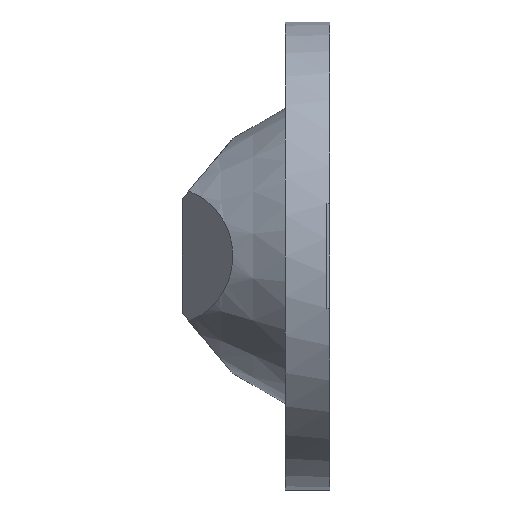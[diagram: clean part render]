
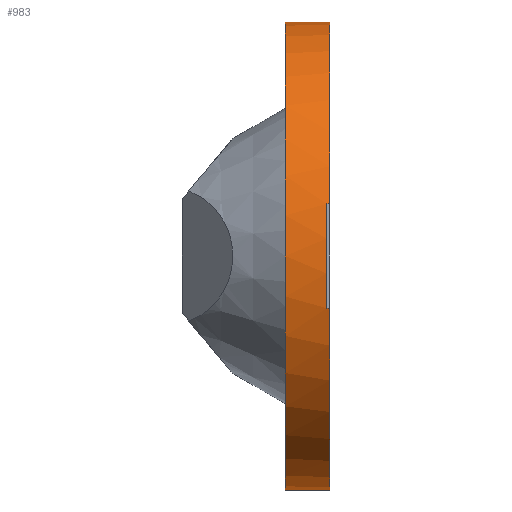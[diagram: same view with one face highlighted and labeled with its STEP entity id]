
A CAD part, left-side view. The second image highlights one B-rep face of the part: STEP entity #983.
In plain terms, the highlighted cylindrical face has radius 100.965 mm (diameter 201.93 mm), a partial arc.
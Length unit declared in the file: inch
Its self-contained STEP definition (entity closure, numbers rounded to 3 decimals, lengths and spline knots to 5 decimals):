
#8 = FACE_OUTER_BOUND ( 'NONE', #1726, .T. ) ;
#41 = VECTOR ( 'NONE', #1838, 39.37008 ) ;
#77 = VECTOR ( 'NONE', #144, 39.37008 ) ;
#144 = DIRECTION ( 'NONE',  ( 0., -1., 0. ) ) ;
#187 = VECTOR ( 'NONE', #1127, 39.37008 ) ;
#198 = CARTESIAN_POINT ( 'NONE',  ( 0., -1.25, 0. ) ) ;
#223 = CARTESIAN_POINT ( 'NONE',  ( -3.875, -1.2, -0.886 ) ) ;
#325 = VERTEX_POINT ( 'NONE', #343 ) ;
#337 = CARTESIAN_POINT ( 'NONE',  ( 0., -0.5, 0. ) ) ;
#341 = DIRECTION ( 'NONE',  ( 0., 0., -1. ) ) ;
#343 = CARTESIAN_POINT ( 'NONE',  ( 0., -1.25, 3.975 ) ) ;
#398 = ORIENTED_EDGE ( 'NONE', *, *, #1639, .F. ) ;
#435 = ORIENTED_EDGE ( 'NONE', *, *, #445, .F. ) ;
#445 = EDGE_CURVE ( 'NONE', #857, #1377, #1176, .T. ) ;
#450 = CARTESIAN_POINT ( 'NONE',  ( -3.875, -1.2, 0.886 ) ) ;
#490 = AXIS2_PLACEMENT_3D ( 'NONE', #670, #1814, #822 ) ;
#493 = DIRECTION ( 'NONE',  ( 0., 0., -1. ) ) ;
#500 = CIRCLE ( 'NONE', #490, 3.975 ) ;
#522 = AXIS2_PLACEMENT_3D ( 'NONE', #337, #1435, #493 ) ;
#541 = DIRECTION ( 'NONE',  ( 0., -1., 0. ) ) ;
#550 = CARTESIAN_POINT ( 'NONE',  ( 0., -1.25, 3.975 ) ) ;
#559 = CARTESIAN_POINT ( 'NONE',  ( -3.875, -1.25, 0.886 ) ) ;
#602 = EDGE_CURVE ( 'NONE', #1126, #1742, #855, .T. ) ;
#670 = CARTESIAN_POINT ( 'NONE',  ( 0., -1.25, 0. ) ) ;
#689 = CYLINDRICAL_SURFACE ( 'NONE', #1191, 3.975 ) ;
#709 = AXIS2_PLACEMENT_3D ( 'NONE', #198, #1301, #341 ) ;
#749 = VERTEX_POINT ( 'NONE', #1770 ) ;
#788 = VERTEX_POINT ( 'NONE', #949 ) ;
#789 = EDGE_CURVE ( 'NONE', #1400, #749, #1923, .T. ) ;
#794 = DIRECTION ( 'NONE',  ( 0., -1., 0. ) ) ;
#795 = CARTESIAN_POINT ( 'NONE',  ( 0., -1.25, -3.975 ) ) ;
#822 = DIRECTION ( 'NONE',  ( 0., 0., -1. ) ) ;
#823 = ORIENTED_EDGE ( 'NONE', *, *, #1391, .F. ) ;
#825 = CARTESIAN_POINT ( 'NONE',  ( -3.875, -1.2, -0.886 ) ) ;
#855 = LINE ( 'NONE', #951, #77 ) ;
#857 = VERTEX_POINT ( 'NONE', #223 ) ;
#917 = ORIENTED_EDGE ( 'NONE', *, *, #1494, .F. ) ;
#937 = VECTOR ( 'NONE', #541, 39.37008 ) ;
#945 = ORIENTED_EDGE ( 'NONE', *, *, #789, .T. ) ;
#949 = CARTESIAN_POINT ( 'NONE',  ( 0., -0.5, 3.975 ) ) ;
#951 = CARTESIAN_POINT ( 'NONE',  ( -3.875, -1.2, 0.886 ) ) ;
#966 = ORIENTED_EDGE ( 'NONE', *, *, #602, .T. ) ;
#983 = ADVANCED_FACE ( 'NONE', ( #8 ), #689, .T. ) ;
#1126 = VERTEX_POINT ( 'NONE', #450 ) ;
#1127 = DIRECTION ( 'NONE',  ( 0., -1., 0. ) ) ;
#1176 = LINE ( 'NONE', #825, #937 ) ;
#1191 = AXIS2_PLACEMENT_3D ( 'NONE', #1650, #1499, #1711 ) ;
#1212 = LINE ( 'NONE', #550, #41 ) ;
#1218 = CIRCLE ( 'NONE', #522, 3.975 ) ;
#1246 = ORIENTED_EDGE ( 'NONE', *, *, #1359, .T. ) ;
#1301 = DIRECTION ( 'NONE',  ( 0., -1., 0. ) ) ;
#1340 = ORIENTED_EDGE ( 'NONE', *, *, #1975, .F. ) ;
#1359 = EDGE_CURVE ( 'NONE', #788, #1400, #1218, .T. ) ;
#1377 = VERTEX_POINT ( 'NONE', #1590 ) ;
#1380 = AXIS2_PLACEMENT_3D ( 'NONE', #1774, #794, #1950 ) ;
#1391 = EDGE_CURVE ( 'NONE', #325, #1742, #2043, .T. ) ;
#1400 = VERTEX_POINT ( 'NONE', #1442 ) ;
#1435 = DIRECTION ( 'NONE',  ( 0., -1., 0. ) ) ;
#1442 = CARTESIAN_POINT ( 'NONE',  ( 0., -0.5, -3.975 ) ) ;
#1494 = EDGE_CURVE ( 'NONE', #1126, #857, #1932, .T. ) ;
#1499 = DIRECTION ( 'NONE',  ( 0., -1., 0. ) ) ;
#1590 = CARTESIAN_POINT ( 'NONE',  ( -3.875, -1.25, -0.886 ) ) ;
#1639 = EDGE_CURVE ( 'NONE', #1377, #749, #500, .T. ) ;
#1650 = CARTESIAN_POINT ( 'NONE',  ( 0., -1.25, 0. ) ) ;
#1711 = DIRECTION ( 'NONE',  ( 0., 0., -1. ) ) ;
#1726 = EDGE_LOOP ( 'NONE', ( #1340, #1246, #945, #398, #435, #917, #966, #823 ) ) ;
#1742 = VERTEX_POINT ( 'NONE', #559 ) ;
#1770 = CARTESIAN_POINT ( 'NONE',  ( 0., -1.25, -3.975 ) ) ;
#1774 = CARTESIAN_POINT ( 'NONE',  ( 0., -1.2, 0. ) ) ;
#1814 = DIRECTION ( 'NONE',  ( 0., -1., 0. ) ) ;
#1838 = DIRECTION ( 'NONE',  ( 0., -1., 0. ) ) ;
#1923 = LINE ( 'NONE', #795, #187 ) ;
#1932 = CIRCLE ( 'NONE', #1380, 3.975 ) ;
#1950 = DIRECTION ( 'NONE',  ( 0., 0., -1. ) ) ;
#1975 = EDGE_CURVE ( 'NONE', #788, #325, #1212, .T. ) ;
#2043 = CIRCLE ( 'NONE', #709, 3.975 ) ;
